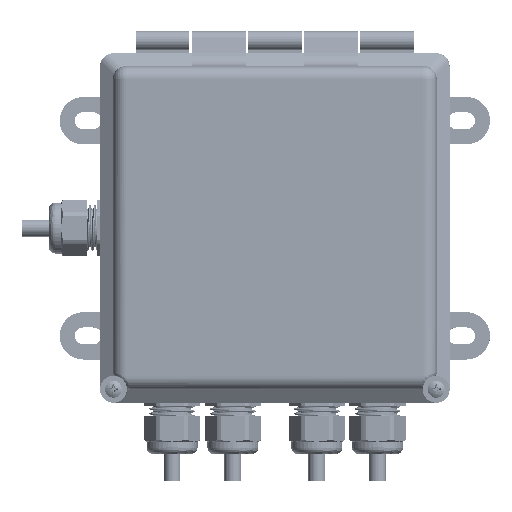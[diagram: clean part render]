
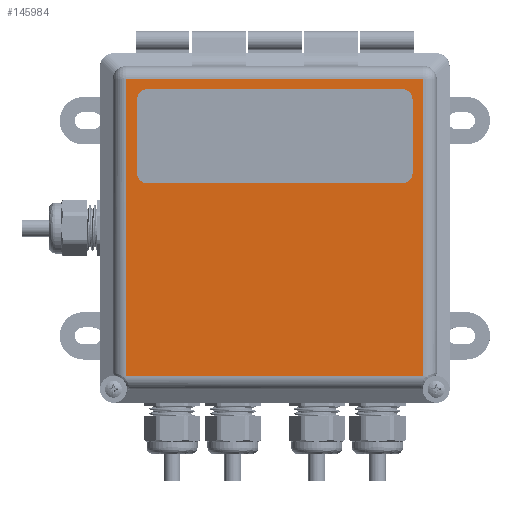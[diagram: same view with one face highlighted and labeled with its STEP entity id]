
A CAD part, top view. The second image highlights one B-rep face of the part: STEP entity #145984.
In plain terms, the highlighted planar face has unit normal (0, 0, 1) as drawn and (0, 1, 0) by its records, which use the part's own axes.
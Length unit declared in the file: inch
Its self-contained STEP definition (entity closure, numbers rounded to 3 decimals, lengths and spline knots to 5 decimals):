
#1975 = LINE ( 'NONE', #153392, #113650 ) ;
#10184 = DIRECTION ( 'NONE',  ( 0., 0., 1. ) ) ;
#11249 = VERTEX_POINT ( 'NONE', #101121 ) ;
#13278 = EDGE_CURVE ( 'NONE', #99822, #51725, #1975, .T. ) ;
#18486 = DIRECTION ( 'NONE',  ( -1., 0., 0. ) ) ;
#22290 = VECTOR ( 'NONE', #10184, 39.37008 ) ;
#51725 = VERTEX_POINT ( 'NONE', #393454 ) ;
#60515 = DIRECTION ( 'NONE',  ( 1., 0., 0. ) ) ;
#72708 = CARTESIAN_POINT ( 'NONE',  ( -0.91319, 4.27793, 1.7244 ) ) ;
#77378 = CARTESIAN_POINT ( 'NONE',  ( -1.16319, 4.27793, 1.9744 ) ) ;
#85596 = CARTESIAN_POINT ( 'NONE',  ( -0.91319, 4.27793, 1.7244 ) ) ;
#90400 = ORIENTED_EDGE ( 'NONE', *, *, #115792, .T. ) ;
#99822 = VERTEX_POINT ( 'NONE', #85596 ) ;
#101121 = CARTESIAN_POINT ( 'NONE',  ( 4.6082, 4.27793, -3.79699 ) ) ;
#103789 = VECTOR ( 'NONE', #18486, 39.37008 ) ;
#104867 = ORIENTED_EDGE ( 'NONE', *, *, #13278, .T. ) ;
#113650 = VECTOR ( 'NONE', #60515, 39.37008 ) ;
#115792 = EDGE_CURVE ( 'NONE', #359366, #99822, #220115, .T. ) ;
#123726 = CARTESIAN_POINT ( 'NONE',  ( -0.91319, 4.27793, -3.79699 ) ) ;
#139572 = LINE ( 'NONE', #230389, #103789 ) ;
#142254 = EDGE_LOOP ( 'NONE', ( #199632, #312000, #90400, #104867 ) ) ;
#145984 = ADVANCED_FACE ( 'NONE', ( #261037 ), #259069, .T. ) ;
#153392 = CARTESIAN_POINT ( 'NONE',  ( 4.6082, 4.27793, 1.7244 ) ) ;
#199527 = AXIS2_PLACEMENT_3D ( 'NONE', #77378, #228744, #319566 ) ;
#199632 = ORIENTED_EDGE ( 'NONE', *, *, #261811, .T. ) ;
#220115 = LINE ( 'NONE', #72708, #22290 ) ;
#228744 = DIRECTION ( 'NONE',  ( 0., 1., 0. ) ) ;
#230389 = CARTESIAN_POINT ( 'NONE',  ( -0.91319, 4.27793, -3.79699 ) ) ;
#242560 = CARTESIAN_POINT ( 'NONE',  ( 4.6082, 4.27793, -3.79699 ) ) ;
#258329 = VECTOR ( 'NONE', #369633, 39.37008 ) ;
#259069 = PLANE ( 'NONE',  #199527 ) ;
#261037 = FACE_OUTER_BOUND ( 'NONE', #142254, .T. ) ;
#261811 = EDGE_CURVE ( 'NONE', #51725, #11249, #305083, .T. ) ;
#277224 = EDGE_CURVE ( 'NONE', #11249, #359366, #139572, .T. ) ;
#305083 = LINE ( 'NONE', #242560, #258329 ) ;
#312000 = ORIENTED_EDGE ( 'NONE', *, *, #277224, .T. ) ;
#319566 = DIRECTION ( 'NONE',  ( 0., 0., 1. ) ) ;
#359366 = VERTEX_POINT ( 'NONE', #123726 ) ;
#369633 = DIRECTION ( 'NONE',  ( 0., 0., -1. ) ) ;
#393454 = CARTESIAN_POINT ( 'NONE',  ( 4.6082, 4.27793, 1.7244 ) ) ;
